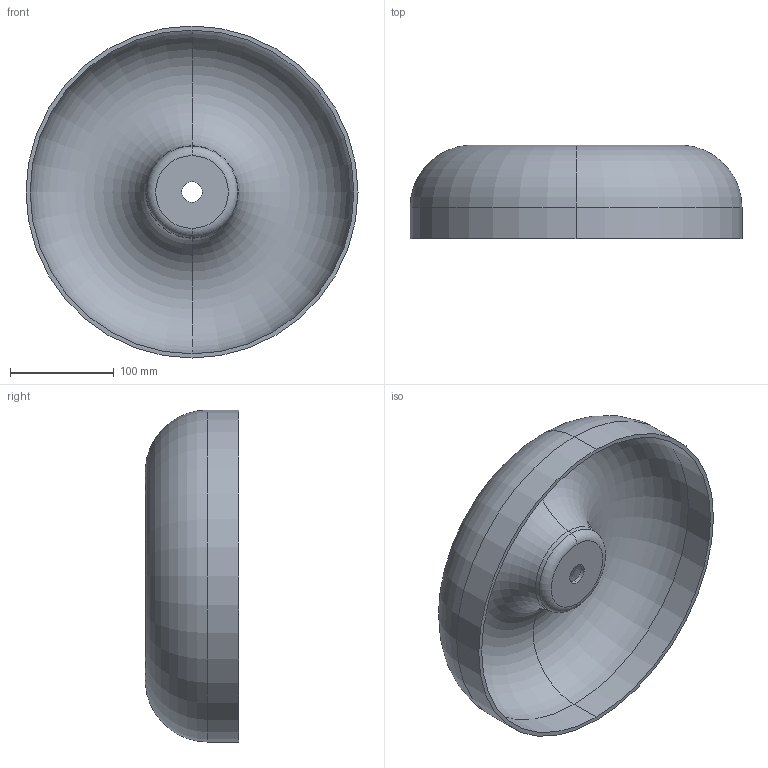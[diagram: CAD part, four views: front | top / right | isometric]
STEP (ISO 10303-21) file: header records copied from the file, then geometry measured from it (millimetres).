
FILE_DESCRIPTION (( 'STEP AP214' ), '1' );
FILE_NAME ('046_PICCOLA_W-C_PL_3D.STEP', '2021-05-21T07:21:26', ( '' ), ( '' ), 'SwSTEP 2.0', 'SolidWorks 2021', '' );
FILE_SCHEMA (( 'AUTOMOTIVE_DESIGN' ));
Length unit declared in the file: millimetre
Products named in the file (1): 046_PICCOLA_W-C_PL_3D
Bounding box: 320 x 89.85 x 320 mm (x, y, z)
Volume: 596936.1 mm3; surface area: 302723.8 mm2
Topology: 1 solids, 1 shells, 21 faces, 42 edges, 24 vertices
Faces by surface type: torus 8, cylinder 6, cone 4, plane 3
Entity records: 821 total; most frequent: DIRECTION 118, CARTESIAN_POINT 88, ORIENTED_EDGE 84, AXIS2_PLACEMENT_3D 54, EDGE_CURVE 42, CIRCLE 32, VERTEX_POINT 24, UNCERTAINTY_MEASURE_WITH_UNIT 24
